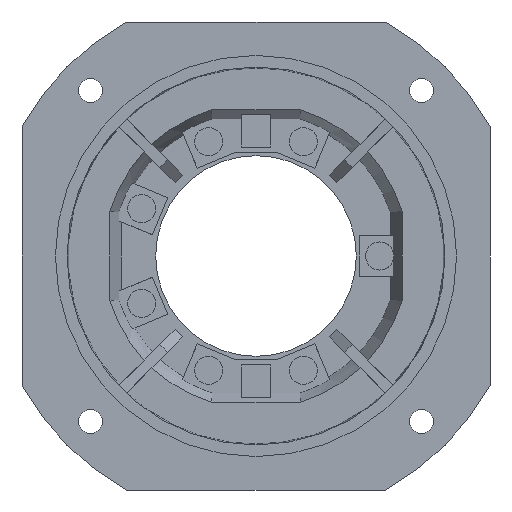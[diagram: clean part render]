
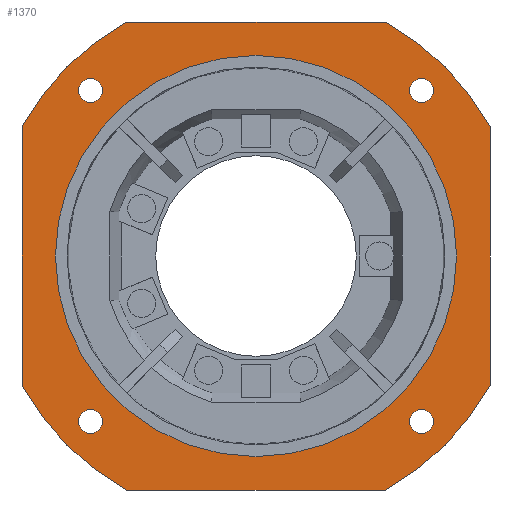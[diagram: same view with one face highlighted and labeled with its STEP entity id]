
A CAD part, left-side view. The second image highlights one B-rep face of the part: STEP entity #1370.
In plain terms, the highlighted planar face has unit normal (-1, 0, 0) as drawn and (1, 0, 0) by its records, which use the part's own axes.
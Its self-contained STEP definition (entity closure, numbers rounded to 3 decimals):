
#33=FACE_BOUND('',#1706,.T.);
#34=FACE_BOUND('',#1707,.T.);
#35=FACE_BOUND('',#1708,.T.);
#36=FACE_BOUND('',#1709,.T.);
#37=FACE_BOUND('',#1710,.T.);
#1370=ADVANCED_FACE('',(#1530,#33,#34,#35,#36,#37),#4163,.T.);
#1530=FACE_OUTER_BOUND('',#1705,.T.);
#1705=EDGE_LOOP('',(#2259,#2260,#2261,#2262,#2263,#2264,#2265,#2266));
#1706=EDGE_LOOP('',(#2267,#2268));
#1707=EDGE_LOOP('',(#2269,#2270));
#1708=EDGE_LOOP('',(#2271,#2272));
#1709=EDGE_LOOP('',(#2273,#2274));
#1710=EDGE_LOOP('',(#2275,#2276));
#2259=ORIENTED_EDGE('',*,*,#2958,.T.);
#2260=ORIENTED_EDGE('',*,*,#2939,.F.);
#2261=ORIENTED_EDGE('',*,*,#2941,.F.);
#2262=ORIENTED_EDGE('',*,*,#2944,.F.);
#2263=ORIENTED_EDGE('',*,*,#2946,.F.);
#2264=ORIENTED_EDGE('',*,*,#2949,.F.);
#2265=ORIENTED_EDGE('',*,*,#2951,.F.);
#2266=ORIENTED_EDGE('',*,*,#2954,.F.);
#2267=ORIENTED_EDGE('',*,*,#2969,.T.);
#2268=ORIENTED_EDGE('',*,*,#3174,.T.);
#2269=ORIENTED_EDGE('',*,*,#2966,.T.);
#2270=ORIENTED_EDGE('',*,*,#3171,.T.);
#2271=ORIENTED_EDGE('',*,*,#2963,.T.);
#2272=ORIENTED_EDGE('',*,*,#3168,.T.);
#2273=ORIENTED_EDGE('',*,*,#2960,.T.);
#2274=ORIENTED_EDGE('',*,*,#3165,.T.);
#2275=ORIENTED_EDGE('',*,*,#2972,.T.);
#2276=ORIENTED_EDGE('',*,*,#3177,.T.);
#2939=EDGE_CURVE('',#4006,#4007,#3261,.T.);
#2941=EDGE_CURVE('',#4008,#4006,#3586,.T.);
#2944=EDGE_CURVE('',#4009,#4008,#3263,.T.);
#2946=EDGE_CURVE('',#4010,#4009,#3589,.T.);
#2949=EDGE_CURVE('',#4011,#4010,#3265,.T.);
#2951=EDGE_CURVE('',#4012,#4011,#3592,.T.);
#2954=EDGE_CURVE('',#4013,#4012,#3267,.T.);
#2958=EDGE_CURVE('',#4013,#4007,#3597,.T.);
#2960=EDGE_CURVE('',#4018,#4059,#3270,.T.);
#2963=EDGE_CURVE('',#4017,#4061,#3272,.T.);
#2966=EDGE_CURVE('',#4016,#4063,#3274,.T.);
#2969=EDGE_CURVE('',#4015,#4065,#3276,.T.);
#2972=EDGE_CURVE('',#4014,#4067,#3278,.T.);
#3165=EDGE_CURVE('',#4059,#4018,#3303,.T.);
#3168=EDGE_CURVE('',#4061,#4017,#3305,.T.);
#3171=EDGE_CURVE('',#4063,#4016,#3307,.T.);
#3174=EDGE_CURVE('',#4065,#4015,#3309,.T.);
#3177=EDGE_CURVE('',#4067,#4014,#3311,.T.);
#3261=TRIMMED_CURVE($,#3378,(#6346),(#6347),.T.,.CARTESIAN.);
#3263=TRIMMED_CURVE($,#3380,(#6362),(#6363),.T.,.CARTESIAN.);
#3265=TRIMMED_CURVE($,#3382,(#6378),(#6379),.T.,.CARTESIAN.);
#3267=TRIMMED_CURVE($,#3384,(#6394),(#6395),.T.,.CARTESIAN.);
#3270=TRIMMED_CURVE($,#3387,(#6413),(#6414),.T.,.CARTESIAN.);
#3272=TRIMMED_CURVE($,#3389,(#6421),(#6422),.T.,.CARTESIAN.);
#3274=TRIMMED_CURVE($,#3391,(#6429),(#6430),.T.,.CARTESIAN.);
#3276=TRIMMED_CURVE($,#3393,(#6437),(#6438),.T.,.CARTESIAN.);
#3278=TRIMMED_CURVE($,#3395,(#6445),(#6446),.T.,.CARTESIAN.);
#3303=TRIMMED_CURVE($,#3420,(#6924),(#6925),.T.,.CARTESIAN.);
#3305=TRIMMED_CURVE($,#3422,(#6932),(#6933),.T.,.CARTESIAN.);
#3307=TRIMMED_CURVE($,#3424,(#6940),(#6941),.T.,.CARTESIAN.);
#3309=TRIMMED_CURVE($,#3426,(#6948),(#6949),.T.,.CARTESIAN.);
#3311=TRIMMED_CURVE($,#3428,(#6956),(#6957),.T.,.CARTESIAN.);
#3378=CIRCLE('',#4613,200.);
#3380=CIRCLE('',#4615,200.);
#3382=CIRCLE('',#4617,200.);
#3384=CIRCLE('',#4619,200.);
#3387=CIRCLE('',#4622,150.);
#3389=CIRCLE('',#4624,9.);
#3391=CIRCLE('',#4626,9.);
#3393=CIRCLE('',#4628,9.);
#3395=CIRCLE('',#4630,9.);
#3420=CIRCLE('',#4655,150.);
#3422=CIRCLE('',#4657,9.);
#3424=CIRCLE('',#4659,9.);
#3426=CIRCLE('',#4661,9.);
#3428=CIRCLE('',#4663,9.);
#3586=B_SPLINE_CURVE_WITH_KNOTS('',1,(#6351,#6352),.UNSPECIFIED.,.F.,.F.,
(2,2),(0.,193.649),.UNSPECIFIED.);
#3589=B_SPLINE_CURVE_WITH_KNOTS('',1,(#6367,#6368),.UNSPECIFIED.,.F.,.F.,
(2,2),(0.,193.649),.UNSPECIFIED.);
#3592=B_SPLINE_CURVE_WITH_KNOTS('',1,(#6383,#6384),.UNSPECIFIED.,.F.,.F.,
(2,2),(0.,193.649),.UNSPECIFIED.);
#3597=B_SPLINE_CURVE_WITH_KNOTS('',1,(#6407,#6408),.UNSPECIFIED.,.F.,.F.,
(2,2),(0.,193.649),.UNSPECIFIED.);
#4006=VERTEX_POINT('',#5746);
#4007=VERTEX_POINT('',#5747);
#4008=VERTEX_POINT('',#5748);
#4009=VERTEX_POINT('',#5749);
#4010=VERTEX_POINT('',#5750);
#4011=VERTEX_POINT('',#5751);
#4012=VERTEX_POINT('',#5752);
#4013=VERTEX_POINT('',#5753);
#4014=VERTEX_POINT('',#5754);
#4015=VERTEX_POINT('',#5755);
#4016=VERTEX_POINT('',#5756);
#4017=VERTEX_POINT('',#5757);
#4018=VERTEX_POINT('',#5758);
#4059=VERTEX_POINT('',#5799);
#4061=VERTEX_POINT('',#5801);
#4063=VERTEX_POINT('',#5803);
#4065=VERTEX_POINT('',#5805);
#4067=VERTEX_POINT('',#5807);
#4163=PLANE('',#4452);
#4452=AXIS2_PLACEMENT_3D('',#5397,#4717,$);
#4613=AXIS2_PLACEMENT_3D($,#6345,#4928,#4929);
#4615=AXIS2_PLACEMENT_3D($,#6361,#4932,#4933);
#4617=AXIS2_PLACEMENT_3D($,#6377,#4936,#4937);
#4619=AXIS2_PLACEMENT_3D($,#6393,#4940,#4941);
#4622=AXIS2_PLACEMENT_3D($,#6412,#4946,#4947);
#4624=AXIS2_PLACEMENT_3D($,#6420,#4950,#4951);
#4626=AXIS2_PLACEMENT_3D($,#6428,#4954,#4955);
#4628=AXIS2_PLACEMENT_3D($,#6436,#4958,#4959);
#4630=AXIS2_PLACEMENT_3D($,#6444,#4962,#4963);
#4655=AXIS2_PLACEMENT_3D($,#6923,#5012,#5013);
#4657=AXIS2_PLACEMENT_3D($,#6931,#5016,#5017);
#4659=AXIS2_PLACEMENT_3D($,#6939,#5020,#5021);
#4661=AXIS2_PLACEMENT_3D($,#6947,#5024,#5025);
#4663=AXIS2_PLACEMENT_3D($,#6955,#5028,#5029);
#4717=DIRECTION('',(1.,0.,0.));
#4928=DIRECTION('',(-1.,0.,0.));
#4929=DIRECTION('',(0.,0.484,0.875));
#4932=DIRECTION('',(-1.,0.,0.));
#4933=DIRECTION('',(0.,-0.875,0.484));
#4936=DIRECTION('',(-1.,0.,0.));
#4937=DIRECTION('',(0.,-0.484,-0.875));
#4940=DIRECTION('',(-1.,0.,0.));
#4941=DIRECTION('',(0.,0.875,-0.484));
#4946=DIRECTION('',(-1.,0.,0.));
#4947=DIRECTION('',(0.,0.,-1.));
#4950=DIRECTION('',(-1.,0.,0.));
#4951=DIRECTION('',(0.,0.,-1.));
#4954=DIRECTION('',(-1.,0.,0.));
#4955=DIRECTION('',(0.,0.,-1.));
#4958=DIRECTION('',(-1.,0.,0.));
#4959=DIRECTION('',(0.,0.,-1.));
#4962=DIRECTION('',(-1.,0.,0.));
#4963=DIRECTION('',(0.,0.,-1.));
#5012=DIRECTION('',(-1.,0.,0.));
#5013=DIRECTION('',(0.,0.,1.));
#5016=DIRECTION('',(-1.,0.,0.));
#5017=DIRECTION('',(0.,0.,1.));
#5020=DIRECTION('',(-1.,0.,0.));
#5021=DIRECTION('',(0.,0.,1.));
#5024=DIRECTION('',(-1.,0.,0.));
#5025=DIRECTION('',(0.,0.,1.));
#5028=DIRECTION('',(-1.,0.,0.));
#5029=DIRECTION('',(0.,0.,1.));
#5397=CARTESIAN_POINT('',(42.5,-210.,210.));
#5746=CARTESIAN_POINT('',(42.5,96.825,175.));
#5747=CARTESIAN_POINT('',(42.5,175.,96.825));
#5748=CARTESIAN_POINT('',(42.5,-96.825,175.));
#5749=CARTESIAN_POINT('',(42.5,-175.,96.825));
#5750=CARTESIAN_POINT('',(42.5,-175.,-96.825));
#5751=CARTESIAN_POINT('',(42.5,-96.825,-175.));
#5752=CARTESIAN_POINT('',(42.5,96.825,-175.));
#5753=CARTESIAN_POINT('',(42.5,175.,-96.825));
#5754=CARTESIAN_POINT('',(42.5,123.744,-132.744));
#5755=CARTESIAN_POINT('',(42.5,-123.744,-132.744));
#5756=CARTESIAN_POINT('',(42.5,-123.744,114.744));
#5757=CARTESIAN_POINT('',(42.5,123.744,114.744));
#5758=CARTESIAN_POINT('',(42.5,0.,-150.));
#5799=CARTESIAN_POINT('',(42.5,0.,150.));
#5801=CARTESIAN_POINT('',(42.5,123.744,132.744));
#5803=CARTESIAN_POINT('',(42.5,-123.744,132.744));
#5805=CARTESIAN_POINT('',(42.5,-123.744,-114.744));
#5807=CARTESIAN_POINT('',(42.5,123.744,-114.744));
#6345=CARTESIAN_POINT('',(42.5,0.,0.));
#6346=CARTESIAN_POINT('',(42.5,96.825,175.));
#6347=CARTESIAN_POINT('',(42.5,175.,96.825));
#6351=CARTESIAN_POINT('',(42.5,-96.825,175.));
#6352=CARTESIAN_POINT('',(42.5,96.825,175.));
#6361=CARTESIAN_POINT('',(42.5,0.,0.));
#6362=CARTESIAN_POINT('',(42.5,-175.,96.825));
#6363=CARTESIAN_POINT('',(42.5,-96.825,175.));
#6367=CARTESIAN_POINT('',(42.5,-175.,-96.825));
#6368=CARTESIAN_POINT('',(42.5,-175.,96.825));
#6377=CARTESIAN_POINT('',(42.5,0.,0.));
#6378=CARTESIAN_POINT('',(42.5,-96.825,-175.));
#6379=CARTESIAN_POINT('',(42.5,-175.,-96.825));
#6383=CARTESIAN_POINT('',(42.5,96.825,-175.));
#6384=CARTESIAN_POINT('',(42.5,-96.825,-175.));
#6393=CARTESIAN_POINT('',(42.5,0.,0.));
#6394=CARTESIAN_POINT('',(42.5,175.,-96.825));
#6395=CARTESIAN_POINT('',(42.5,96.825,-175.));
#6407=CARTESIAN_POINT('',(42.5,175.,-96.825));
#6408=CARTESIAN_POINT('',(42.5,175.,96.825));
#6412=CARTESIAN_POINT('',(42.5,0.,0.));
#6413=CARTESIAN_POINT('',(42.5,0.,-150.));
#6414=CARTESIAN_POINT('',(42.5,0.,150.));
#6420=CARTESIAN_POINT('',(42.5,123.744,123.744));
#6421=CARTESIAN_POINT('',(42.5,123.744,114.744));
#6422=CARTESIAN_POINT('',(42.5,123.744,132.744));
#6428=CARTESIAN_POINT('',(42.5,-123.744,123.744));
#6429=CARTESIAN_POINT('',(42.5,-123.744,114.744));
#6430=CARTESIAN_POINT('',(42.5,-123.744,132.744));
#6436=CARTESIAN_POINT('',(42.5,-123.744,-123.744));
#6437=CARTESIAN_POINT('',(42.5,-123.744,-132.744));
#6438=CARTESIAN_POINT('',(42.5,-123.744,-114.744));
#6444=CARTESIAN_POINT('',(42.5,123.744,-123.744));
#6445=CARTESIAN_POINT('',(42.5,123.744,-132.744));
#6446=CARTESIAN_POINT('',(42.5,123.744,-114.744));
#6923=CARTESIAN_POINT('',(42.5,0.,0.));
#6924=CARTESIAN_POINT('',(42.5,0.,150.));
#6925=CARTESIAN_POINT('',(42.5,0.,-150.));
#6931=CARTESIAN_POINT('',(42.5,123.744,123.744));
#6932=CARTESIAN_POINT('',(42.5,123.744,132.744));
#6933=CARTESIAN_POINT('',(42.5,123.744,114.744));
#6939=CARTESIAN_POINT('',(42.5,-123.744,123.744));
#6940=CARTESIAN_POINT('',(42.5,-123.744,132.744));
#6941=CARTESIAN_POINT('',(42.5,-123.744,114.744));
#6947=CARTESIAN_POINT('',(42.5,-123.744,-123.744));
#6948=CARTESIAN_POINT('',(42.5,-123.744,-114.744));
#6949=CARTESIAN_POINT('',(42.5,-123.744,-132.744));
#6955=CARTESIAN_POINT('',(42.5,123.744,-123.744));
#6956=CARTESIAN_POINT('',(42.5,123.744,-114.744));
#6957=CARTESIAN_POINT('',(42.5,123.744,-132.744));
